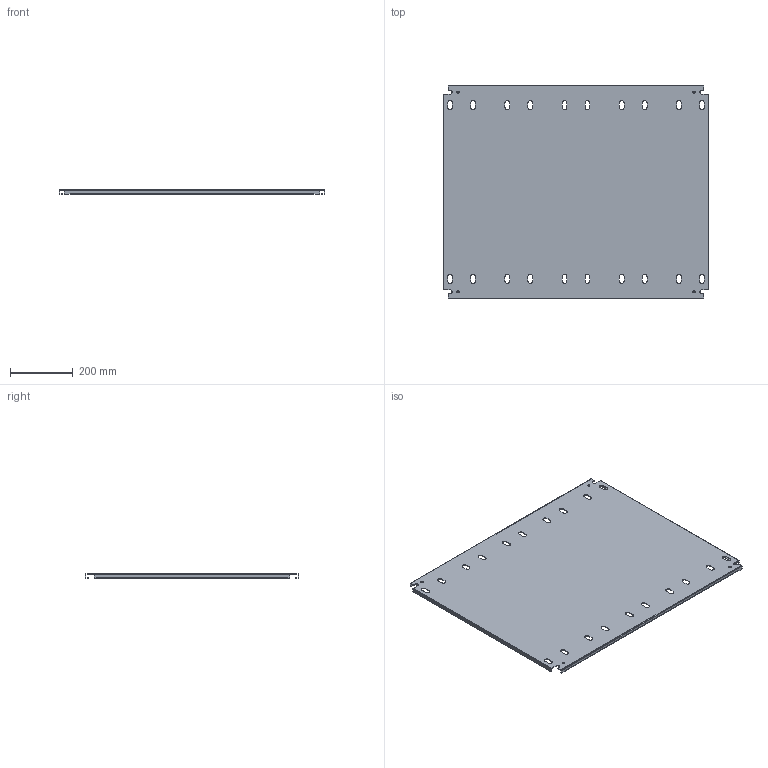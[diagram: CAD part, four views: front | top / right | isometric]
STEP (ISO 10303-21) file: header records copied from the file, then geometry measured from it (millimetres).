
FILE_DESCRIPTION(/* description */ ('1412BTCU 33.293" x 26.75" Left Inner Panel'),/* implementation_level */ '2;1');
FILE_NAME(/* name */ 'C:\Vault_Workspace\Inventor_Dwg\BoxCad\Result\1412BTCU111605DT\e-mail\3D\1412BTCU111605DTIP1.stp',/* time_stamp */ '2022-10-24T08:54:21-04:00',/* author */ ('BoxCad'),/* organization */ (''),/* preprocessor_version */ 'ST-DEVELOPER v18.1',/* originating_system */ 'Autodesk Inventor 2020',/* authorisation */ '');
FILE_SCHEMA (('AUTOMOTIVE_DESIGN { 1 0 10303 214 3 1 1 }'));
Length unit declared in the file: inch
Products named in the file (2): 1412BTCU111605DTIP1; 1412BTCU111605DTIP1-P
Assembly tree (1 placements, depth 2):
  1412BTCU111605DTIP1
    1412BTCU111605DTIP1-P
Bounding box: 845.64 x 679.45 x 13 mm (x, y, z)
Volume: 1066079 mm3; surface area: 1242927 mm2
Topology: 1 solids, 1 shells, 190 faces, 564 edges, 376 vertices
Faces by surface type: plane 106, cylinder 84
Full cylindrical faces by diameter (mm): 7.366 x4
Entity records: 6561 total; most frequent: CARTESIAN_POINT 1133, ORIENTED_EDGE 1128, DIRECTION 1118, EDGE_CURVE 564, LINE 396, VECTOR 396, VERTEX_POINT 376, AXIS2_PLACEMENT_3D 361
